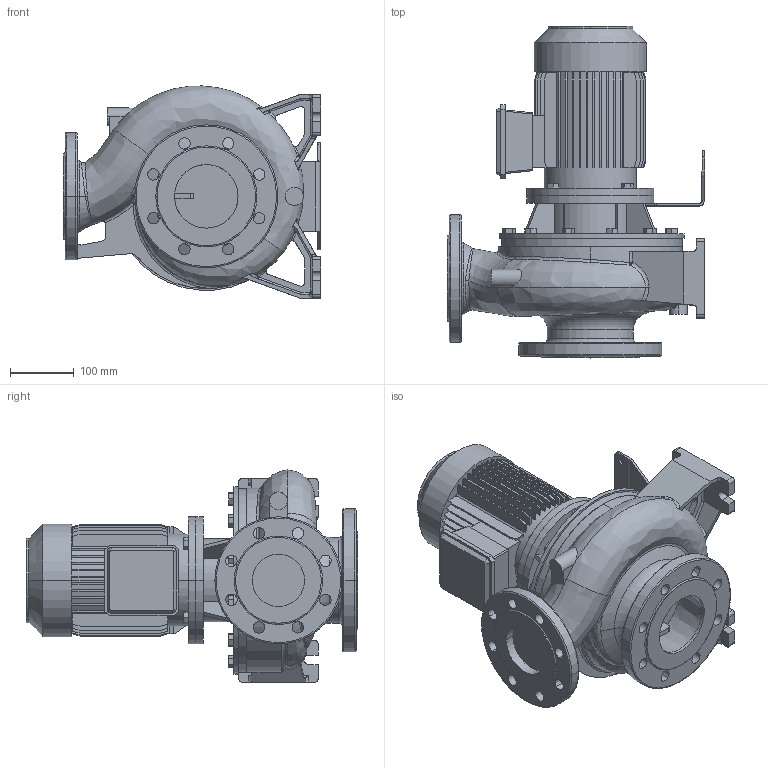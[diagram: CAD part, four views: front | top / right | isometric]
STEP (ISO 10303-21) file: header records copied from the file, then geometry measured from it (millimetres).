
FILE_DESCRIPTION((''),'2;1');
FILE_NAME('3S4_80-160_1_5_IE3_ASM','2016-09-24T',('rosa'),('"Ebara Pumps Europe +39.444.706811"'),'PRO/ENGINEER BY PARAMETRIC TECHNOLOGY CORPORATION, 2012130','PRO/ENGINEER BY PARAMETRIC TECHNOLOGY CORPORATION, 2012130','');
FILE_SCHEMA(('AUTOMOTIVE_DESIGN { 1 0 10303 214 1 1 1 1 }'));
Length unit declared in the file: millimetre
Products named in the file (5): MOTORE_90_1_1-1_5_KW_4POLI_B5; SUPPORTO_3S_230_90; SOSTEGNO_3S_72195; CORPO_POMPA_80-160; 3S4_80-160_1_5_IE3_ASM
Assembly tree (4 placements, depth 2):
  3S4_80-160_1_5_IE3_ASM
    MOTORE_90_1_1-1_5_KW_4POLI_B5
    SUPPORTO_3S_230_90
    SOSTEGNO_3S_72195
    CORPO_POMPA_80-160
Bounding box: 405 x 522 x 333.68 mm (x, y, z)
Volume: 16679594 mm3; surface area: 1308528.9 mm2
Topology: 4 solids, 4 shells, 873 faces, 2254 edges, 1460 vertices
Faces by surface type: plane 558, cylinder 185, bspline 82, torus 22, cone 16, sphere 10
Entity records: 39726 total; most frequent: CARTESIAN_POINT 11105, ORIENTED_EDGE 4506, DIRECTION 4137, EDGE_CURVE 2253, PRESENTATION_STYLE_ASSIGNMENT 2116, STYLED_ITEM 2116, CURVE_STYLE 2113, VECTOR 1471
